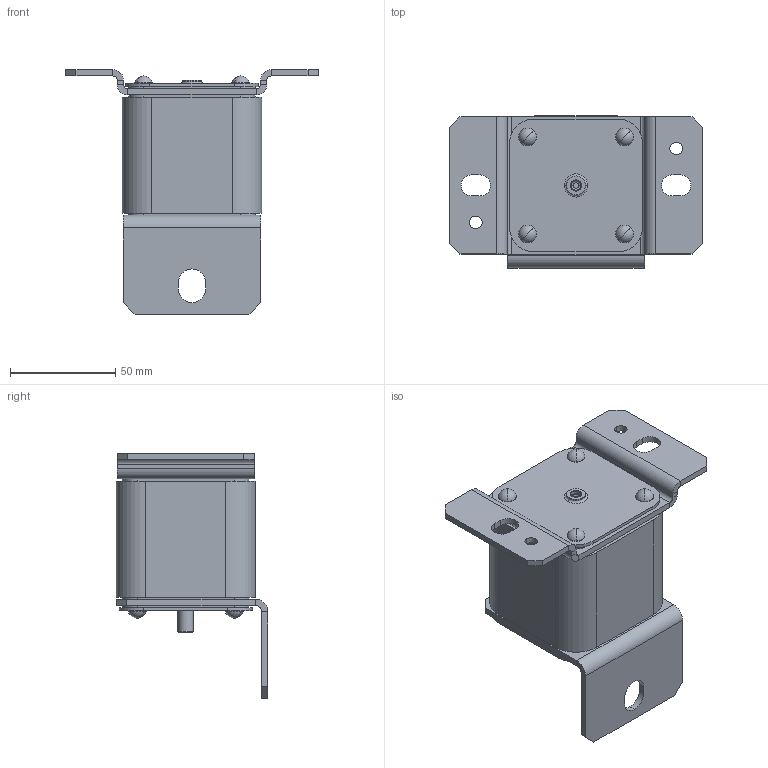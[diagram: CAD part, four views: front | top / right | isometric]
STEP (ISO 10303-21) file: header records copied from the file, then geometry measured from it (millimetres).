
FILE_DESCRIPTION (( 'STEP AP214' ), '1' );
FILE_NAME ('ﾏﾏ60ﾑ-37,38,39,40ﾃ1-XXXX-XXXX-ﾊﾝﾀﾇ.STEP', '2023-04-28T11:34:09', ( '' ), ( '' ), 'SwSTEP 2.0', 'SolidWorks 2018', '' );
FILE_SCHEMA (( 'AUTOMOTIVE_DESIGN' ));
Length unit declared in the file: millimetre
Products named in the file (1): ﾏﾏ60ﾑ-37,38,39,40ﾃ1-XXXX-XXXX-ﾊﾝﾀﾇ
Bounding box: 120 x 72 x 116 mm (x, y, z)
Volume: 290995.3 mm3; surface area: 56186.8 mm2
Topology: 1 solids, 10 shells, 381 faces, 845 edges, 524 vertices
Faces by surface type: plane 192, cylinder 137, torus 28, sphere 16, cone 8
Entity records: 14778 total; most frequent: DIRECTION 2025, CARTESIAN_POINT 1751, ORIENTED_EDGE 1690, EDGE_CURVE 845, AXIS2_PLACEMENT_3D 798, VERTEX_POINT 524, EDGE_LOOP 431, LINE 429
